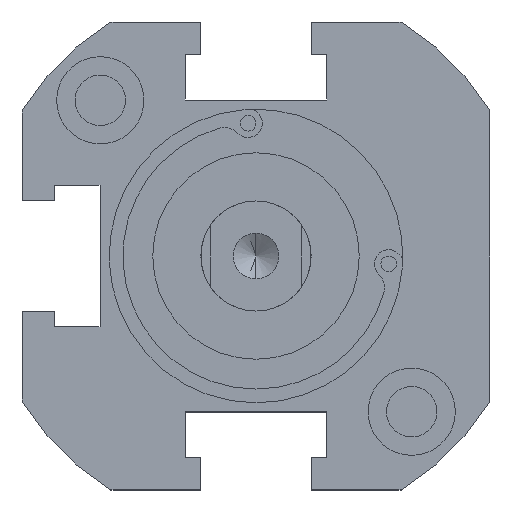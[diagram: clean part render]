
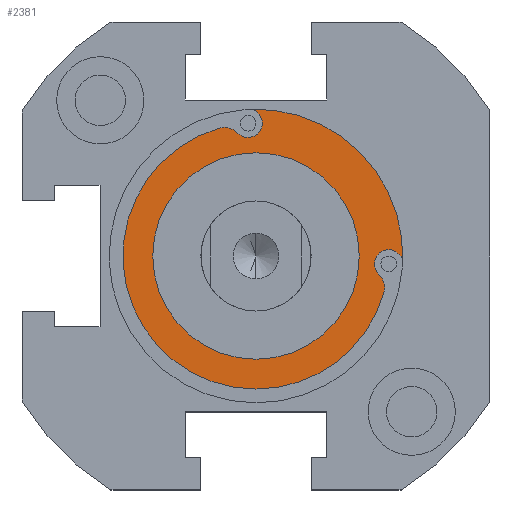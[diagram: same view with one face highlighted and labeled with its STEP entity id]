
A CAD part, front view. The second image highlights one B-rep face of the part: STEP entity #2381.
In plain terms, the highlighted planar face has unit normal (0, -1, 0) as drawn and (0, 1, 0) by its records, which use the part's own axes.
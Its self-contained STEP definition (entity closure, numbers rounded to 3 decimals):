
#14 = EDGE_LOOP ( 'NONE', ( #2237, #1776, #1085, #562, #1516, #2488, #535, #1396 ) ) ;
#56 = DIRECTION ( 'NONE',  ( 0., 1., 0. ) ) ;
#128 = CARTESIAN_POINT ( 'NONE',  ( -0.859, -2., -14.464 ) ) ;
#277 = CARTESIAN_POINT ( 'NONE',  ( 0., -2., 0. ) ) ;
#314 = DIRECTION ( 'NONE',  ( 0., 1., 0. ) ) ;
#336 = CARTESIAN_POINT ( 'NONE',  ( -0.859, -2., -14.464 ) ) ;
#345 = CARTESIAN_POINT ( 'NONE',  ( 0., -2., -11.25 ) ) ;
#356 = AXIS2_PLACEMENT_3D ( 'NONE', #1482, #1037, #1950 ) ;
#399 = VERTEX_POINT ( 'NONE', #1420 ) ;
#428 = AXIS2_PLACEMENT_3D ( 'NONE', #545, #798, #2495 ) ;
#498 = DIRECTION ( 'NONE',  ( 0., 0., 1. ) ) ;
#535 = ORIENTED_EDGE ( 'NONE', *, *, #2391, .F. ) ;
#541 = CARTESIAN_POINT ( 'NONE',  ( -0.859, -2., -12.914 ) ) ;
#545 = CARTESIAN_POINT ( 'NONE',  ( 0., -2., 0. ) ) ;
#562 = ORIENTED_EDGE ( 'NONE', *, *, #1952, .T. ) ;
#736 = CARTESIAN_POINT ( 'NONE',  ( -1.983, -2., -13.397 ) ) ;
#798 = DIRECTION ( 'NONE',  ( 0., 1., 0. ) ) ;
#813 = DIRECTION ( 'NONE',  ( 0., 0., 1. ) ) ;
#833 = CARTESIAN_POINT ( 'NONE',  ( 0., -2., 0. ) ) ;
#864 = AXIS2_PLACEMENT_3D ( 'NONE', #3043, #2320, #2297 ) ;
#866 = DIRECTION ( 'NONE',  ( 0., 0., 1. ) ) ;
#942 = AXIS2_PLACEMENT_3D ( 'NONE', #277, #2007, #2739 ) ;
#989 = CARTESIAN_POINT ( 'NONE',  ( 0., -2., 14.5 ) ) ;
#1012 = EDGE_LOOP ( 'NONE', ( #2645, #1152 ) ) ;
#1037 = DIRECTION ( 'NONE',  ( 0., 1., 0. ) ) ;
#1040 = CIRCLE ( 'NONE', #1294, 2. ) ;
#1085 = ORIENTED_EDGE ( 'NONE', *, *, #1212, .T. ) ;
#1110 = EDGE_CURVE ( 'NONE', #1607, #1462, #1154, .T. ) ;
#1125 = VERTEX_POINT ( 'NONE', #989 ) ;
#1152 = ORIENTED_EDGE ( 'NONE', *, *, #1935, .F. ) ;
#1154 = CIRCLE ( 'NONE', #2555, 2. ) ;
#1173 = AXIS2_PLACEMENT_3D ( 'NONE', #2239, #56, #2259 ) ;
#1212 = EDGE_CURVE ( 'NONE', #2523, #1632, #1040, .T. ) ;
#1246 = CARTESIAN_POINT ( 'NONE',  ( -3.433, -2., -12.019 ) ) ;
#1257 = AXIS2_PLACEMENT_3D ( 'NONE', #336, #1328, #2067 ) ;
#1272 = DIRECTION ( 'NONE',  ( 0., 1., 0. ) ) ;
#1294 = AXIS2_PLACEMENT_3D ( 'NONE', #2726, #1272, #813 ) ;
#1309 = CARTESIAN_POINT ( 'NONE',  ( 0., -2., 0. ) ) ;
#1328 = DIRECTION ( 'NONE',  ( 0., 1., 0. ) ) ;
#1343 = DIRECTION ( 'NONE',  ( 0., 1., 0. ) ) ;
#1396 = ORIENTED_EDGE ( 'NONE', *, *, #1110, .T. ) ;
#1420 = CARTESIAN_POINT ( 'NONE',  ( 0., -2., 11.25 ) ) ;
#1462 = VERTEX_POINT ( 'NONE', #2372 ) ;
#1482 = CARTESIAN_POINT ( 'NONE',  ( 0., -2., 0. ) ) ;
#1516 = ORIENTED_EDGE ( 'NONE', *, *, #2715, .T. ) ;
#1607 = VERTEX_POINT ( 'NONE', #736 ) ;
#1632 = VERTEX_POINT ( 'NONE', #1705 ) ;
#1705 = CARTESIAN_POINT ( 'NONE',  ( 13.397, -2., 1.983 ) ) ;
#1708 = EDGE_CURVE ( 'NONE', #1125, #2523, #3021, .T. ) ;
#1735 = CARTESIAN_POINT ( 'NONE',  ( -0.582, -2., -15.989 ) ) ;
#1776 = ORIENTED_EDGE ( 'NONE', *, *, #1708, .T. ) ;
#1793 = DIRECTION ( 'NONE',  ( 0., 1., 0. ) ) ;
#1798 = EDGE_CURVE ( 'NONE', #1462, #1125, #2986, .T. ) ;
#1806 = AXIS2_PLACEMENT_3D ( 'NONE', #128, #1793, #2305 ) ;
#1904 = VERTEX_POINT ( 'NONE', #2022 ) ;
#1909 = AXIS2_PLACEMENT_3D ( 'NONE', #1309, #314, #2992 ) ;
#1935 = EDGE_CURVE ( 'NONE', #2769, #399, #2508, .T. ) ;
#1945 = DIRECTION ( 'NONE',  ( 0., 1., 0. ) ) ;
#1950 = DIRECTION ( 'NONE',  ( 0., 0., 1. ) ) ;
#1952 = EDGE_CURVE ( 'NONE', #1632, #1904, #2982, .T. ) ;
#2004 = FACE_BOUND ( 'NONE', #1012, .T. ) ;
#2007 = DIRECTION ( 'NONE',  ( 0., 1., 0. ) ) ;
#2011 = EDGE_CURVE ( 'NONE', #2550, #2219, #2086, .T. ) ;
#2022 = CARTESIAN_POINT ( 'NONE',  ( 15.989, -2., 0.582 ) ) ;
#2058 = AXIS2_PLACEMENT_3D ( 'NONE', #833, #1343, #866 ) ;
#2067 = DIRECTION ( 'NONE',  ( 0., 0., 1. ) ) ;
#2086 = CIRCLE ( 'NONE', #1806, 1.55 ) ;
#2219 = VERTEX_POINT ( 'NONE', #1735 ) ;
#2237 = ORIENTED_EDGE ( 'NONE', *, *, #1798, .T. ) ;
#2239 = CARTESIAN_POINT ( 'NONE',  ( 0., -2., 0. ) ) ;
#2259 = DIRECTION ( 'NONE',  ( 0., 0., 1. ) ) ;
#2266 = CIRCLE ( 'NONE', #942, 11.25 ) ;
#2297 = DIRECTION ( 'NONE',  ( 0., 0., 1. ) ) ;
#2305 = DIRECTION ( 'NONE',  ( 0., 0., 1. ) ) ;
#2320 = DIRECTION ( 'NONE',  ( 0., -1., 0. ) ) ;
#2372 = CARTESIAN_POINT ( 'NONE',  ( -3.982, -2., -13.942 ) ) ;
#2381 = ADVANCED_FACE ( 'NONE', ( #2661, #2004 ), #2794, .T. ) ;
#2391 = EDGE_CURVE ( 'NONE', #1607, #2550, #2913, .T. ) ;
#2488 = ORIENTED_EDGE ( 'NONE', *, *, #2011, .F. ) ;
#2495 = DIRECTION ( 'NONE',  ( 0., 0., 1. ) ) ;
#2501 = CARTESIAN_POINT ( 'NONE',  ( 13.942, -2., 3.982 ) ) ;
#2508 = CIRCLE ( 'NONE', #1173, 11.25 ) ;
#2523 = VERTEX_POINT ( 'NONE', #2501 ) ;
#2524 = EDGE_CURVE ( 'NONE', #399, #2769, #2266, .T. ) ;
#2535 = CIRCLE ( 'NONE', #1909, 16. ) ;
#2550 = VERTEX_POINT ( 'NONE', #541 ) ;
#2555 = AXIS2_PLACEMENT_3D ( 'NONE', #1246, #1945, #498 ) ;
#2645 = ORIENTED_EDGE ( 'NONE', *, *, #2524, .F. ) ;
#2661 = FACE_OUTER_BOUND ( 'NONE', #14, .T. ) ;
#2715 = EDGE_CURVE ( 'NONE', #1904, #2219, #2535, .T. ) ;
#2726 = CARTESIAN_POINT ( 'NONE',  ( 12.019, -2., 3.433 ) ) ;
#2739 = DIRECTION ( 'NONE',  ( 0., 0., 1. ) ) ;
#2769 = VERTEX_POINT ( 'NONE', #345 ) ;
#2794 = PLANE ( 'NONE',  #2058 ) ;
#2913 = CIRCLE ( 'NONE', #1257, 1.55 ) ;
#2982 = CIRCLE ( 'NONE', #864, 1.55 ) ;
#2986 = CIRCLE ( 'NONE', #428, 14.5 ) ;
#2992 = DIRECTION ( 'NONE',  ( 0., 0., 1. ) ) ;
#3021 = CIRCLE ( 'NONE', #356, 14.5 ) ;
#3043 = CARTESIAN_POINT ( 'NONE',  ( 14.464, -2., 0.859 ) ) ;
